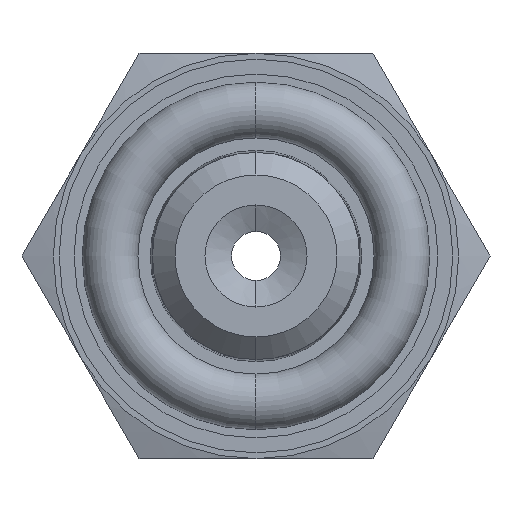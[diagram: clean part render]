
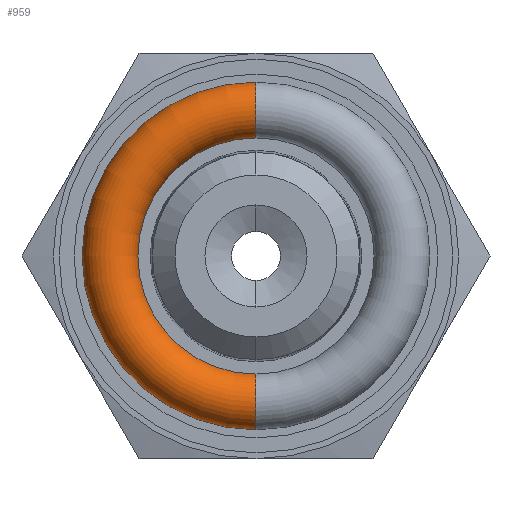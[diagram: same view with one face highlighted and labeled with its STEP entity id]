
A CAD part, left-side view. The second image highlights one B-rep face of the part: STEP entity #959.
In plain terms, the highlighted toroidal (fillet/blend) face has major radius 6.86 mm and minor radius 1.31 mm.
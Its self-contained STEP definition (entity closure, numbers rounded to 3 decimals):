
#917 = EDGE_CURVE ( 'NONE', #942, #974, #1646, .T. ) ;
#940 = ORIENTED_EDGE ( 'NONE', *, *, #917, .F. ) ;
#941 = ORIENTED_EDGE ( 'NONE', *, *, #976, .F. ) ;
#942 = VERTEX_POINT ( 'NONE', #1606 ) ;
#958 = EDGE_CURVE ( 'NONE', #1109, #975, #1920, .T. ) ;
#959 = ADVANCED_FACE ( 'NONE', ( #1915 ), #1914, .T. ) ;
#960 = EDGE_LOOP ( 'NONE', ( #940, #941, #977, #978 ) ) ;
#974 = VERTEX_POINT ( 'NONE', #1834 ) ;
#975 = VERTEX_POINT ( 'NONE', #1833 ) ;
#976 = EDGE_CURVE ( 'NONE', #1109, #942, #1832, .T. ) ;
#977 = ORIENTED_EDGE ( 'NONE', *, *, #958, .T. ) ;
#978 = ORIENTED_EDGE ( 'NONE', *, *, #1090, .T. ) ;
#1090 = EDGE_CURVE ( 'NONE', #975, #974, #1942, .T. ) ;
#1109 = VERTEX_POINT ( 'NONE', #2118 ) ;
#1606 = CARTESIAN_POINT ( 'NONE',  ( -3.61, 0., -8.17 ) ) ;
#1642 = DIRECTION ( 'NONE',  ( 0., 0., -1. ) ) ;
#1643 = DIRECTION ( 'NONE',  ( 1., 0., 0. ) ) ;
#1644 = CARTESIAN_POINT ( 'NONE',  ( -3.61, 0., 0. ) ) ;
#1645 = AXIS2_PLACEMENT_3D ( 'NONE', #1644, #1643, #1642 ) ;
#1646 = CIRCLE ( 'NONE', #1645, 8.17 ) ;
#1828 = DIRECTION ( 'NONE',  ( 0., 0., -1. ) ) ;
#1829 = DIRECTION ( 'NONE',  ( 0., -1., 0. ) ) ;
#1830 = CARTESIAN_POINT ( 'NONE',  ( -3.61, 0., -6.86 ) ) ;
#1831 = AXIS2_PLACEMENT_3D ( 'NONE', #1830, #1829, #1828 ) ;
#1832 = CIRCLE ( 'NONE', #1831, 1.31 ) ;
#1833 = CARTESIAN_POINT ( 'NONE',  ( -3.61, 0., 5.55 ) ) ;
#1834 = CARTESIAN_POINT ( 'NONE',  ( -3.61, 0., 8.17 ) ) ;
#1909 = DIRECTION ( 'NONE',  ( 0., 0., -1. ) ) ;
#1910 = DIRECTION ( 'NONE',  ( 1., 0., 0. ) ) ;
#1911 = CARTESIAN_POINT ( 'NONE',  ( -3.61, 0., 0. ) ) ;
#1912 = AXIS2_PLACEMENT_3D ( 'NONE', #1911, #1910, #1909 ) ;
#1914 = TOROIDAL_SURFACE ( 'NONE', #1912, 6.86, 1.31 ) ;
#1915 = FACE_OUTER_BOUND ( 'NONE', #960, .T. ) ;
#1916 = DIRECTION ( 'NONE',  ( 0., 0., -1. ) ) ;
#1917 = DIRECTION ( 'NONE',  ( 1., 0., 0. ) ) ;
#1918 = CARTESIAN_POINT ( 'NONE',  ( -3.61, 0., 0. ) ) ;
#1919 = AXIS2_PLACEMENT_3D ( 'NONE', #1918, #1917, #1916 ) ;
#1920 = CIRCLE ( 'NONE', #1919, 5.55 ) ;
#1934 = DIRECTION ( 'NONE',  ( 0., 0., 1. ) ) ;
#1935 = DIRECTION ( 'NONE',  ( 0., 1., 0. ) ) ;
#1936 = CARTESIAN_POINT ( 'NONE',  ( -3.61, 0., 6.86 ) ) ;
#1937 = AXIS2_PLACEMENT_3D ( 'NONE', #1936, #1935, #1934 ) ;
#1942 = CIRCLE ( 'NONE', #1937, 1.31 ) ;
#2118 = CARTESIAN_POINT ( 'NONE',  ( -3.61, 0., -5.55 ) ) ;
